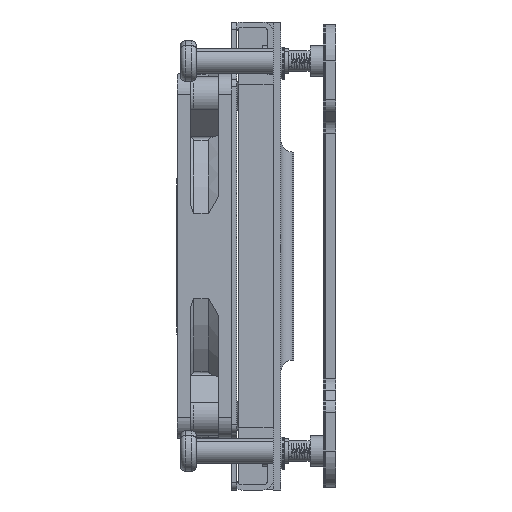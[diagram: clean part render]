
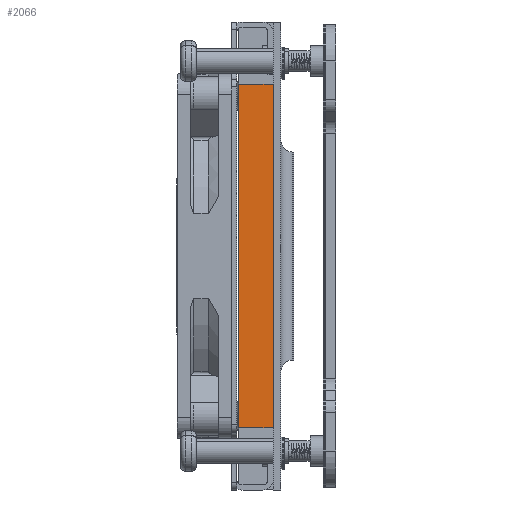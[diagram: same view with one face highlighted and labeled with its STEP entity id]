
A CAD part, left-side view. The second image highlights one B-rep face of the part: STEP entity #2066.
In plain terms, the highlighted planar face has unit normal (-1, 0, 0).
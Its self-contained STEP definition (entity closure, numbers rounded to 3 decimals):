
#740=DIRECTION('',(0.,0.,1.));
#741=VECTOR('',#740,66.08);
#742=CARTESIAN_POINT('',(-44.25,1.5,-33.04));
#743=LINE('',#742,#741);
#1136=DIRECTION('',(0.,1.,0.));
#1137=VECTOR('',#1136,6.65);
#1138=CARTESIAN_POINT('',(-44.25,1.5,33.04));
#1139=LINE('',#1138,#1137);
#1144=DIRECTION('',(0.,1.,0.));
#1145=VECTOR('',#1144,6.65);
#1146=CARTESIAN_POINT('',(-44.25,1.5,-33.04));
#1147=LINE('',#1146,#1145);
#1148=DIRECTION('',(0.,0.,1.));
#1149=VECTOR('',#1148,66.08);
#1150=CARTESIAN_POINT('',(-44.25,8.15,-33.04));
#1151=LINE('',#1150,#1149);
#1260=CARTESIAN_POINT('',(-44.25,1.5,-33.04));
#1261=VERTEX_POINT('',#1260);
#1262=CARTESIAN_POINT('',(-44.25,1.5,33.04));
#1263=VERTEX_POINT('',#1262);
#1360=CARTESIAN_POINT('',(-44.25,8.15,33.04));
#1361=VERTEX_POINT('',#1360);
#1362=CARTESIAN_POINT('',(-44.25,8.15,-33.04));
#1363=VERTEX_POINT('',#1362);
#2053=CARTESIAN_POINT('',(-44.25,1.5,-33.04));
#2054=DIRECTION('',(-1.,0.,0.));
#2055=DIRECTION('',(0.,0.,1.));
#2056=AXIS2_PLACEMENT_3D('',#2053,#2054,#2055);
#2057=PLANE('',#2056);
#2058=ORIENTED_EDGE('',*,*,#1463,.F.);
#2060=ORIENTED_EDGE('',*,*,#2059,.T.);
#2062=ORIENTED_EDGE('',*,*,#2061,.T.);
#2063=ORIENTED_EDGE('',*,*,#2045,.F.);
#2064=EDGE_LOOP('',(#2058,#2060,#2062,#2063));
#2065=FACE_OUTER_BOUND('',#2064,.F.);
#2066=ADVANCED_FACE('',(#2065),#2057,.T.);
#1463=EDGE_CURVE('',#1261,#1263,#743,.T.);
#2045=EDGE_CURVE('',#1263,#1361,#1139,.T.);
#2059=EDGE_CURVE('',#1261,#1363,#1147,.T.);
#2061=EDGE_CURVE('',#1363,#1361,#1151,.T.);
